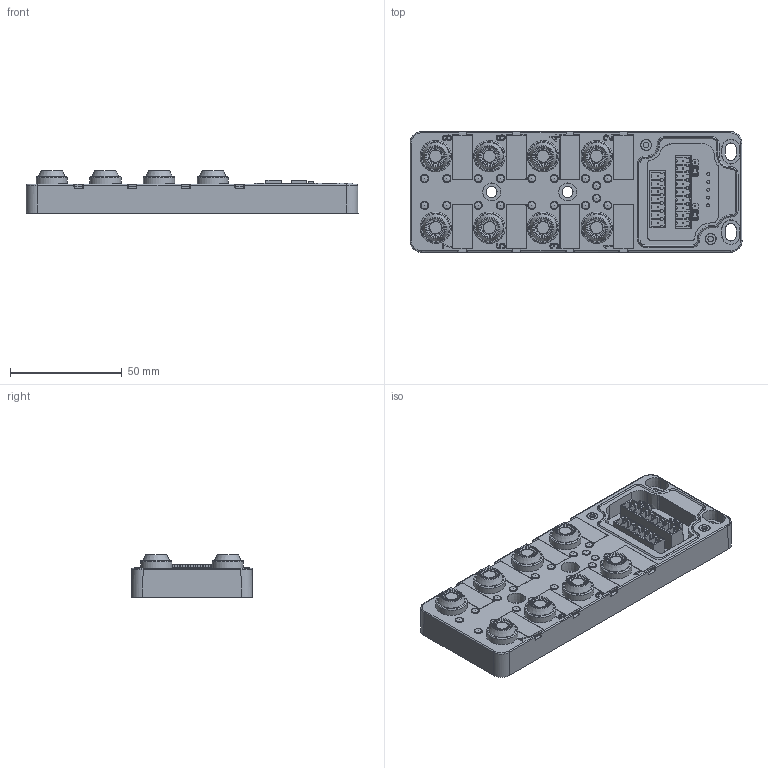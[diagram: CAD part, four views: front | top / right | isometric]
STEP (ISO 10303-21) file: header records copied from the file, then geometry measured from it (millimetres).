
FILE_DESCRIPTION((''),'2;1');
FILE_NAME('C:\Users\enrico\Desktop\Ale\Sito Web Mintec\AUTOMAZIONE_2020\FOTO & STEP Distributori passivi_ciabatte\A cablare\M8 calotta 10 vie.stp','2020-07-23T17:03:03',('Tecnico2'),(''),'Autodesk Inventor 2012','Autodesk Inventor 2012','');
FILE_SCHEMA(('AUTOMOTIVE_DESIGN { 1 0 10303 214 1 1 1 1 }'));
Length unit declared in the file: millimetre
Products named in the file (5): caibatta M8 10 vie calotta; M8 calotta 10 vie; 2701003BI; 0606753NI_Ghiera M12 adatt.M8; inserto no poli
Assembly tree (18 placements, depth 2):
  caibatta M8 10 vie calotta
    M8 calotta 10 vie
    2701003BI
    0606753NI_Ghiera M12 adatt.M8  x8
    inserto no poli  x8
Bounding box: 148.5 x 54 x 19.06 mm (x, y, z)
Volume: 59979.5 mm3; surface area: 81904.3 mm2
Topology: 52 solids, 52 shells, 2742 faces, 7068 edges, 4690 vertices
Faces by surface type: plane 1620, cylinder 505, cone 355, bspline 206, torus 38, sphere 18
Full cylindrical faces by diameter (mm): 0.9 x6, 1 x40, 1.3 x21, 1.6 x24, 2.5 x2, 3.2 x4, 3.6 x36, 4.75 x2, 5 x2, 6.917 x8, 7.3 x8, 8 x2, 8.4 x16, 8.7 x8, 10.8 x8, 14 x16
Entity records: 76666 total; most frequent: CARTESIAN_POINT 20133, ORIENTED_EDGE 11446, DIRECTION 11021, EDGE_CURVE 5723, VERTEX_POINT 3969, VECTOR 3787, LINE 3787, AXIS2_PLACEMENT_3D 3617
